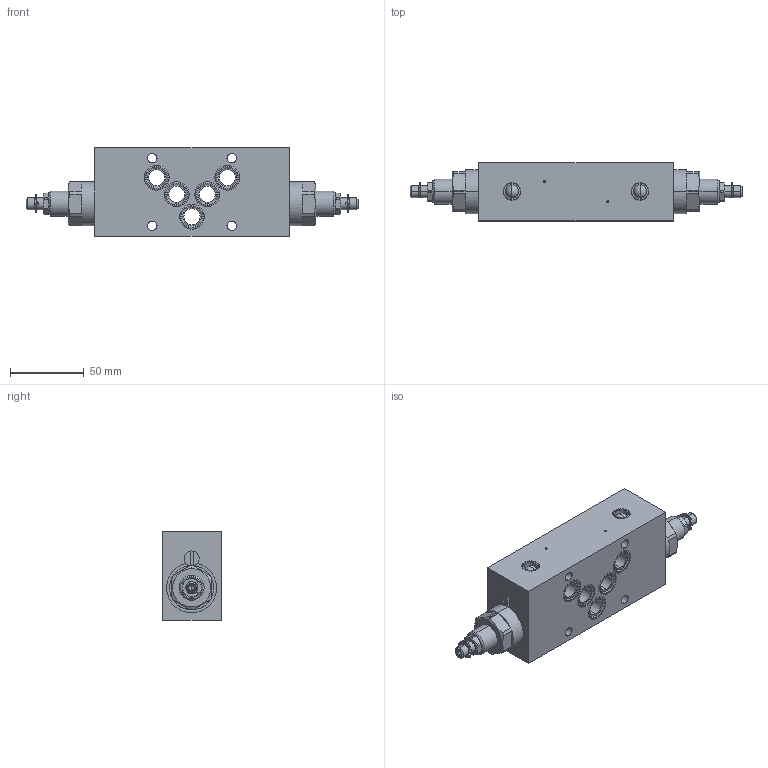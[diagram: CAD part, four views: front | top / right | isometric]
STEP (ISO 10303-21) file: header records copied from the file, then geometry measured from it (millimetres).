
FILE_DESCRIPTION (( 'STEP AP214' ), '1' );
FILE_NAME ('B.SSA10-AB.STEP', '2017-03-23T07:28:53', ( '' ), ( '' ), 'SwSTEP 2.0', 'SolidWorks 2016', '' );
FILE_SCHEMA (( 'AUTOMOTIVE_DESIGN' ));
Length unit declared in the file: millimetre
Products named in the file (1): B.SSA10-AB
Bounding box: 225.6 x 39.5 x 60 mm (x, y, z)
Volume: 318552.6 mm3; surface area: 52375.1 mm2
Topology: 11 solids, 13 shells, 413 faces, 1045 edges, 660 vertices
Faces by surface type: cylinder 151, plane 130, cone 84, bspline 40, sphere 8
Entity records: 18050 total; most frequent: CARTESIAN_POINT 3501, DIRECTION 2145, ORIENTED_EDGE 2050, EDGE_CURVE 1025, AXIS2_PLACEMENT_3D 892, VERTEX_POINT 660, CIRCLE 518, EDGE_LOOP 465
